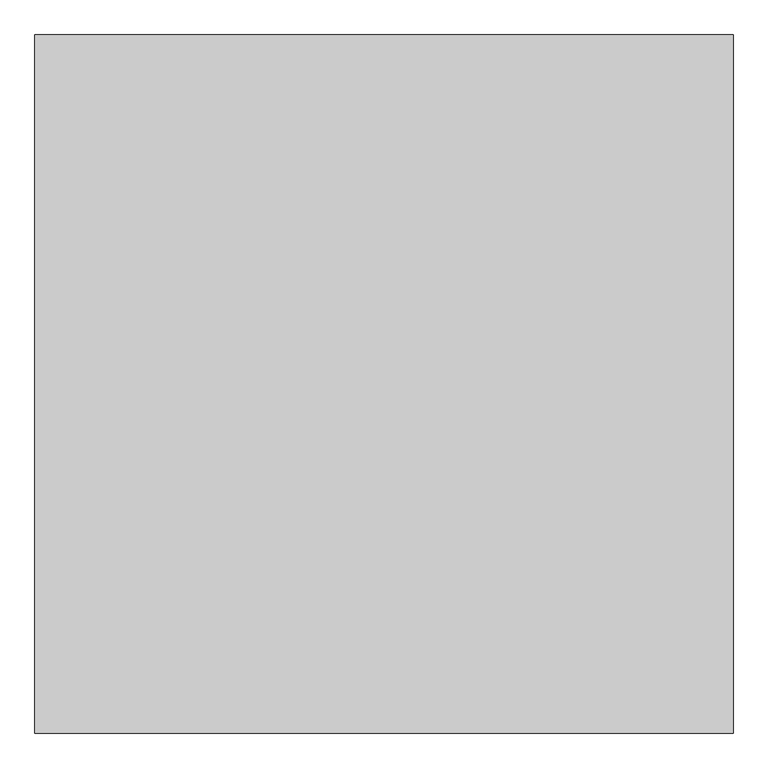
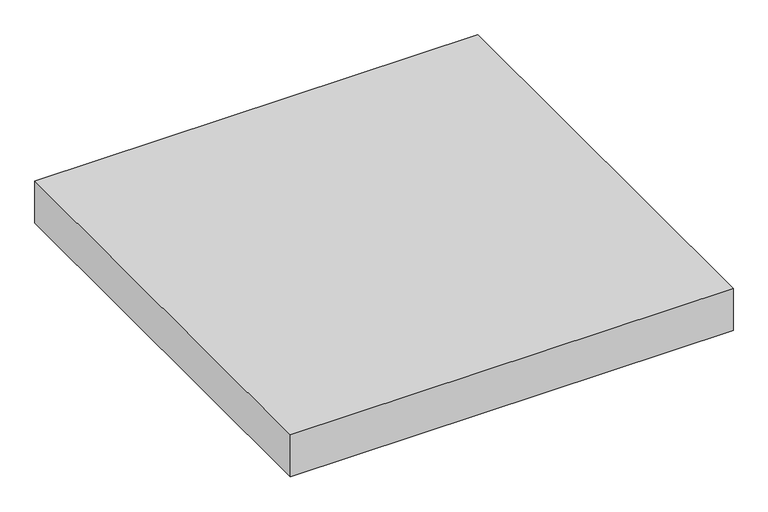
"""IFC4 building model written with IfcOpenShell, lengths in millimetres: proxy geometry, Modelos genéricos 7 : Modelos genéricos 1."""

from ifc_helpers import new_model, si_unit, origin, origin_with_axes, place, context, project, spatial, polyline, outline, extrude, source, transform, mapped, element, save


def generic_models_fcddf058(model_context):
    return source(origin(), model_context, "Body", "SweptSolid", [
        extrude(outline(polyline([(-14225.6026359, -3545.712814), (-14225.6026359, -5045.712814), (-15725.6026359, -5045.712814), (-15725.6026359, -3545.712814), (-14225.6026359, -3545.712814)])), origin_with_axes(), (0.0, 0.0, 1.0), 150.0),
    ])


if __name__ == "__main__":
    model = new_model("IFC4")
    model_context = context("Model", 3, world=origin())
    ifc_project = project(units=[si_unit("LENGTHUNIT", "METRE", prefix="MILLI")], contexts=[model_context])
    site = spatial("IfcSite", under=ifc_project)
    building = spatial("IfcBuilding", under=site)
    placement = place(None, origin())
    generic_models_shape = generic_models_fcddf058(model_context)
    element("IfcBuildingElementProxy", 1, Name="Modelos genéricos 7 : Modelos genéricos 1", ObjectType="Modelos genéricos 7 : Modelos genéricos 1", at=placement, inside=building, context=model_context, shape_type="MappedRepresentation", body=[
        mapped(generic_models_shape, transform((0.0, 0.0, 0.0), x_axis=(1.0, 0.0, 0.0), y_axis=(0.0, 1.0, 0.0), z_axis=(0.0, 0.0, 1.0))),
    ])
    save(model, "model.ifc")
